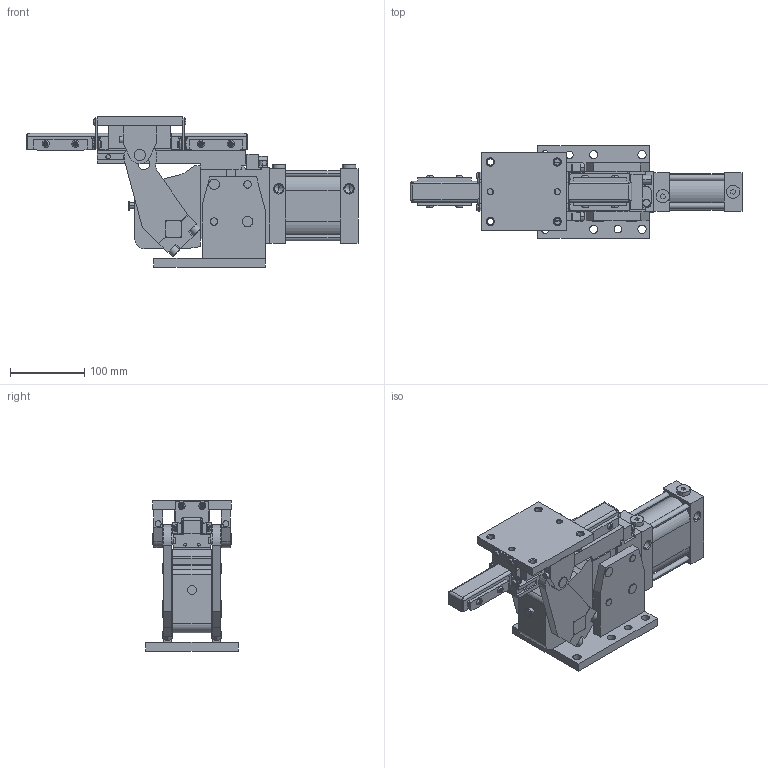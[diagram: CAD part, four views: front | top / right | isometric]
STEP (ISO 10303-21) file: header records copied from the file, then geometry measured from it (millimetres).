
FILE_DESCRIPTION (( 'STEP AP214' ), '1' );
FILE_NAME ('slcp63_90_xx_x_s1.STEP', '2019-09-19T12:50:49', ( '' ), ( '' ), 'SwSTEP 2.0', 'SolidWorks 2019', '' );
FILE_SCHEMA (( 'AUTOMOTIVE_DESIGN' ));
Length unit declared in the file: millimetre
Products named in the file (8): blocchetto_VEP_0; slcp63_90_xx_x_s1; leva_slcp63; riparo_binario_ant_slcp63; slcp63_90_xx_x_x; tappo cil G1_4 din908_rondella rame; riparo_binario_post_slcp63; piastra_superiore_slcp63
Assembly tree (8 placements, depth 2):
  slcp63_90_xx_x_s1
    slcp63_90_xx_x_x
    piastra_superiore_slcp63
    leva_slcp63
    blocchetto_VEP_0
    tappo cil G1_4 din908_rondella rame  x2
    riparo_binario_ant_slcp63
    riparo_binario_post_slcp63
Bounding box: 446.5 x 125 x 202.5 mm (x, y, z)
Volume: 2703797 mm3; surface area: 395308.3 mm2
Topology: 43 solids, 57 shells, 1546 faces, 3795 edges, 2355 vertices
Faces by surface type: plane 713, cylinder 427, cone 366, torus 40
Entity records: 57350 total; most frequent: CARTESIAN_POINT 8987, DIRECTION 7847, ORIENTED_EDGE 7354, EDGE_CURVE 3677, AXIS2_PLACEMENT_3D 2863, VERTEX_POINT 2335, LINE 2121, VECTOR 2121
